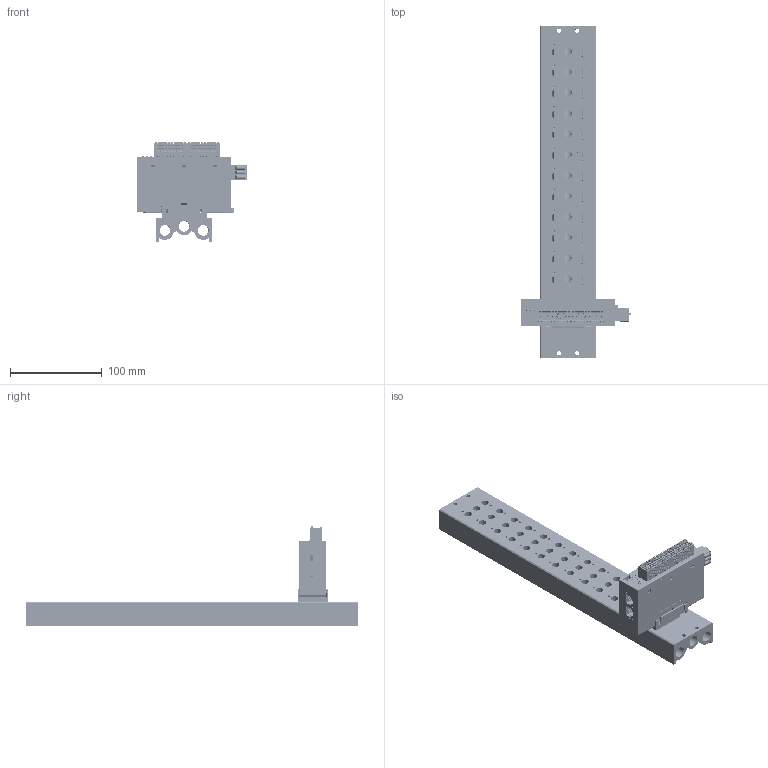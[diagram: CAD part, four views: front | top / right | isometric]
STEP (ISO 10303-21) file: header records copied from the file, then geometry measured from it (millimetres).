
FILE_DESCRIPTION(/* description */ (''),/* implementation_level */ '2;1');
FILE_NAME(/* name */ '',/* time_stamp */ '2025-10-09T15:25:45+08:00',/* author */ (''),/* organization */ (''),/* preprocessor_version */ 'ST-DEVELOPER v14',/* originating_system */ 'SIEMENS PLM Software NX 8.0',/* authorisation */ '');
FILE_SCHEMA (('AP203_CONFIGURATION_CONTROLLED_3D_DESIGN_OF_MECHANICAL_PARTS_AND_ASSEMBLIES_MIM_LF { 1 0 10303 403 2 1 2}'));
Products named in the file (1): DELL3E5857E9ub4w
Bounding box: 119.8 x 361 x 108.48 mm (x, y, z)
Volume: 523843.1 mm3; surface area: 174874.7 mm2
Topology: 2 solids, 228 shells, 9977 faces, 26443 edges, 17220 vertices
Faces by surface type: plane 6493, cylinder 2297, torus 336, bspline 335, cone 238, extrusion 183, sphere 95
Full cylindrical faces by diameter (mm): 0.18 x2, 2.5 x29, 3.05 x40, 3.3 x3, 3.5 x4, 4 x4, 4.5 x4, 6 x4, 8 x36, 9.6 x1, 11.492 x1, 11.5 x5, 11.8 x6
Entity records: 329235 total; most frequent: CARTESIAN_POINT 84152, ORIENTED_EDGE 51676, DIRECTION 48732, EDGE_CURVE 25838, VECTOR 18376, LINE 18193, VERTEX_POINT 17062, AXIS2_PLACEMENT_3D 15178
